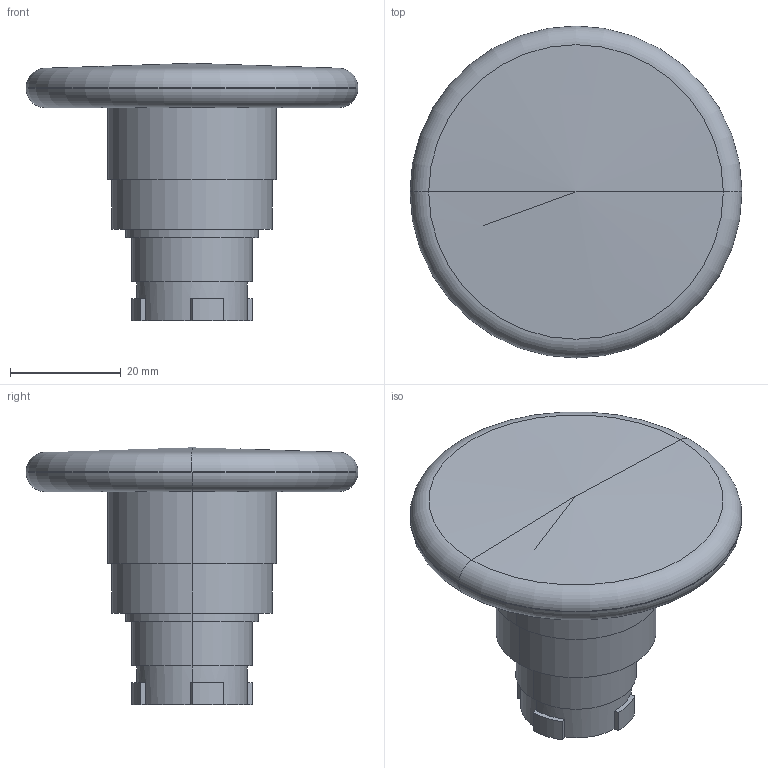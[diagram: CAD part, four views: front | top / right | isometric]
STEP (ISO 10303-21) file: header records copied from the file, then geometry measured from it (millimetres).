
FILE_DESCRIPTION (( 'STEP AP214' ), '1' );
FILE_NAME ('3D 斁麧錪 MTB2-BR4.STEP', '2017-05-18T13:41:07', ( 'adm' ), ( 'MICROSOFT' ), 'SwSTEP 2.0', 'SolidWorks 2011', '' );
FILE_SCHEMA (( 'AUTOMOTIVE_DESIGN' ));
Length unit declared in the file: millimetre
Products named in the file (1): 3D 斁麧錪 MTB2-BR4
Bounding box: 60 x 60 x 46.5 mm (x, y, z)
Volume: 33120 mm3; surface area: 12298.5 mm2
Topology: 1 solids, 2 shells, 76 faces, 178 edges, 115 vertices
Faces by surface type: plane 38, cylinder 32, torus 4, cone 2
Entity records: 3054 total; most frequent: DIRECTION 408, CARTESIAN_POINT 368, ORIENTED_EDGE 352, EDGE_CURVE 176, AXIS2_PLACEMENT_3D 155, VERTEX_POINT 115, LINE 98, VECTOR 98
